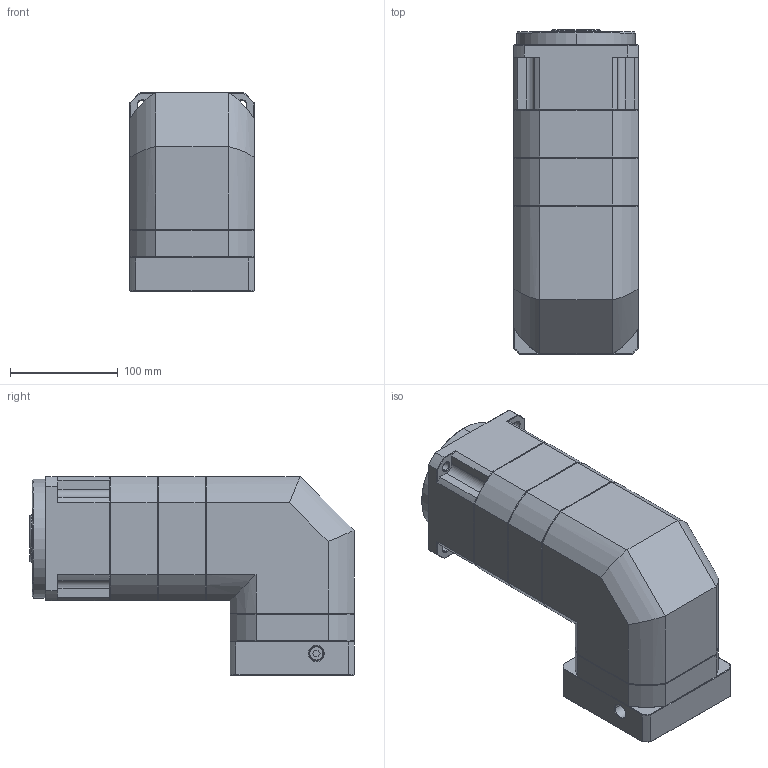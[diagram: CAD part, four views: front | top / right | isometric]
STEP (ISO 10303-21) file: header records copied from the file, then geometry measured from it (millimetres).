
FILE_DESCRIPTION (( 'STEP AP214' ), '1' );
FILE_NAME ('ZPBR115-K32-L3-P1-19-95-115-M8.step', '2024-06-29T08:16:47', ( 'Windows 蚚誧' ), ( 'Organization' ), 'SwSTEP 2.0', 'SolidWorks 2016', '' );
FILE_SCHEMA (( 'AUTOMOTIVE_DESIGN' ));
Length unit declared in the file: millimetre
Products named in the file (1): ZPBR115-K32-L3-P1-19-95-115-M8
Bounding box: 115 x 300.5 x 184.2 mm (x, y, z)
Surface area: 209991.8 mm2 (no closed solid volume)
Topology: 0 solids, 28 shells, 1848 faces, 4938 edges, 3152 vertices
Faces by surface type: plane 950, bspline 374, cone 288, cylinder 236
Entity records: 88498 total; most frequent: CARTESIAN_POINT 38181, ORIENTED_EDGE 9874, DIRECTION 7619, EDGE_CURVE 4938, VECTOR 3205, LINE 3205, VERTEX_POINT 3152, AXIS2_PLACEMENT_3D 2207
